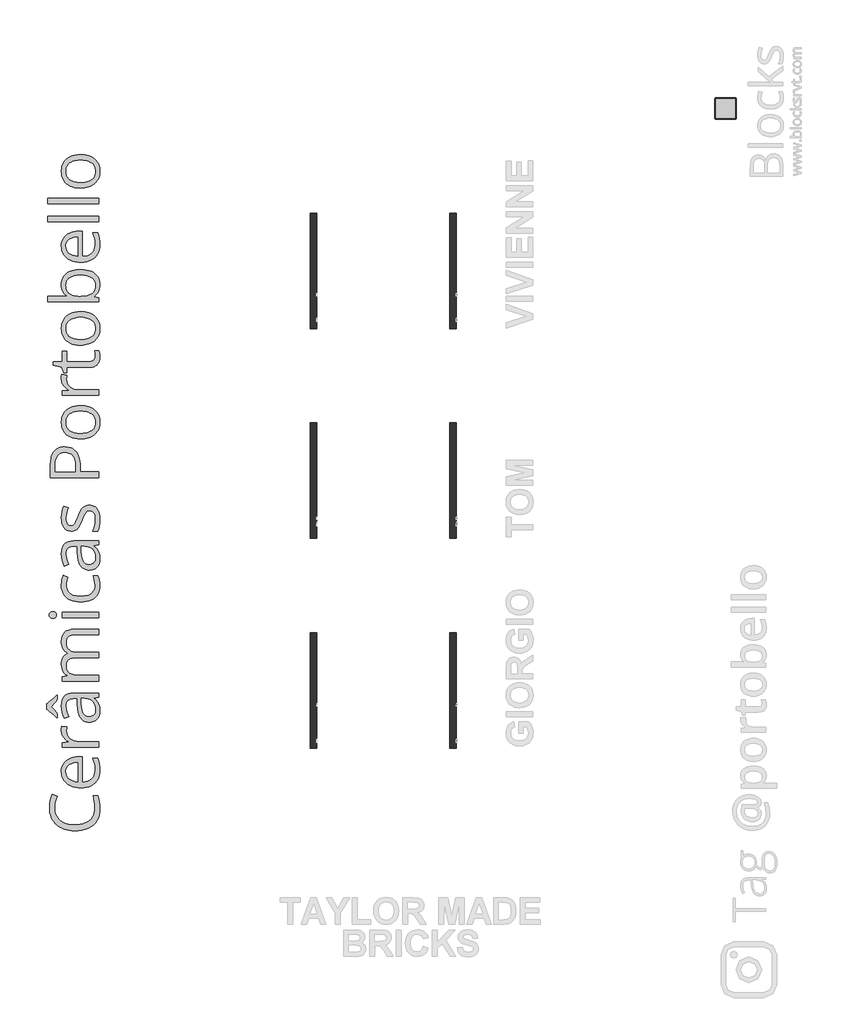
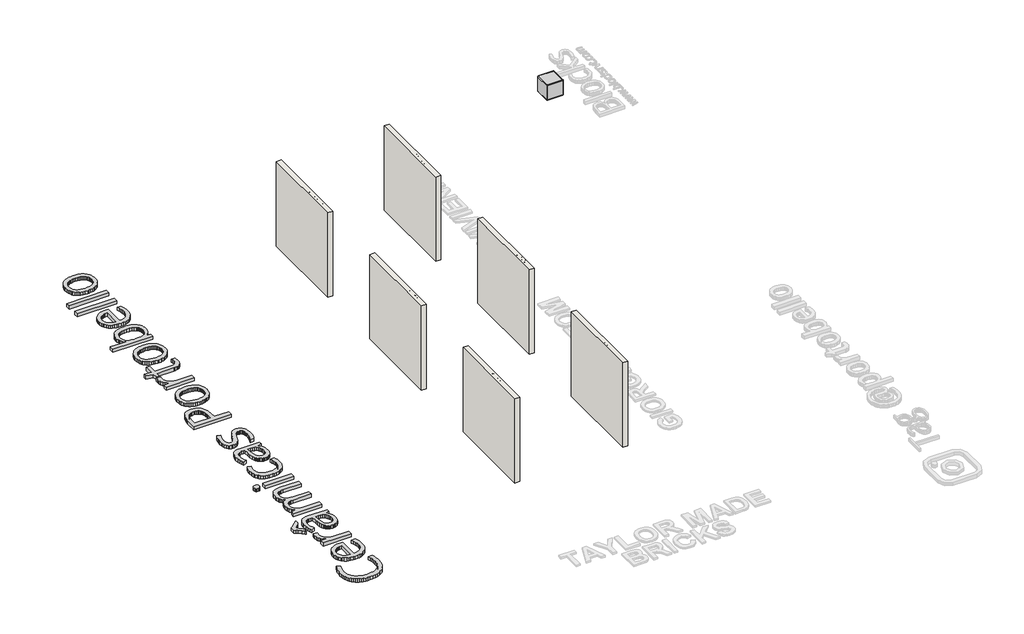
# One storey, part 1 of 6: 6 walls, 1 furniture element, 1 proxy.
"""IFC4 building model written with IfcOpenShell, lengths in millimetres."""

from ifc_helpers import new_model, si_unit, origin, origin_with_axes, place, context, project, spatial, polyline, outline, extrude, transform, mapped, element, save
from components import branco_22256ad2

model = new_model("IFC4")

# Units and contexts
model_context = context("Model", 3, world=origin())
ifc_project = project(units=[si_unit("LENGTHUNIT", "METRE", prefix="MILLI")], contexts=[model_context])

# Site, building, storey
site = spatial("IfcSite", under=ifc_project)
building = spatial("IfcBuilding", under=site)
storey = spatial("IfcBuildingStorey", under=building, Name="PORTOBELLO - SHOWROOM", Elevation=0.0)

# Proxy
placement = place(None, origin())
element("IfcBuildingElementProxy", 1, Name="1200mm OpenSans", ObjectType="1200mm OpenSans", at=placement, inside=storey, context=model_context, shape_type="SweptSolid", body=[
    extrude(outline(polyline([(-19325.6169212, -9711.6761029), (-19323.577561, -9757.5335398), (-19317.4594803, -9801.0023339), (-19307.2626792, -9842.082485), (-19292.9871577, -9880.7739932), (-19274.8695266, -9916.8627821), (-19253.1463968, -9950.134775), (-19227.8177682, -9980.5899721), (-19198.8836409, -10008.2283732), (-19166.5468242, -10032.9260395), (-19131.0101274, -10054.5590319), (-19092.2735504, -10073.1273503), (-19050.3370934, -10088.6309949), (-19005.437367, -10100.855889), (-18957.8109823, -10109.5879562), (-18907.4579391, -10114.8271966), (-18854.3782375, -10116.57361), (-18784.4878981, -10113.7906157), (-18719.3973789, -10105.4416327), (-18659.1066799, -10091.526661), (-18603.615801, -10072.0457007), (-18553.5331703, -10046.9987517), (-18509.4672155, -10016.3858141), (-18471.4179368, -9980.2068878), (-18439.385334, -9938.4619729), (-18413.9891023, -9891.1398021), (-18395.8489369, -9838.2291082), (-18384.9648376, -9779.7298914), (-18381.3368045, -9715.6421515), (-18384.5366846, -9641.7744963), (-18394.136325, -9572.3235771), (-18408.6033886, -9505.9373318), (-18426.4055386, -9441.2636983), (-18311.3901292, -9441.2636983), (-18291.0190614, -9504.9007509), (-18276.7773414, -9571.7827523), (-18268.3945569, -9646.6869883), (-18265.6002953, -9734.3907449), (-18270.1297031, -9817.3735515), (-18283.7179264, -9893.2580326), (-18306.3649653, -9962.044188), (-18338.0708198, -10023.7320178), (-18378.0467869, -10078.2201173), (-18425.5041639, -10125.4070819), (-18480.4429508, -10165.2929116), (-18542.8631475, -10197.8776063), (-18611.9985856, -10223.1949677), (-18687.0830966, -10241.2787972), (-18768.1166805, -10252.129095), (-18855.0993373, -10255.7458609), (-18918.7701914, -10253.4924242), (-18979.6242496, -10246.7321141), (-19037.6615119, -10235.4649305), (-19092.8819784, -10219.6908736), (-19144.8574959, -10199.5676838), (-19193.1599117, -10175.2531018), (-19237.7892256, -10146.7471275), (-19278.7454378, -10114.0497609), (-19315.6454638, -10077.2624067), (-19348.1062195, -10036.4864695), (-19376.1277049, -9991.7219494), (-19399.7099201, -9942.9688463), (-19418.4021775, -9890.3623664), (-19431.75379, -9834.037716), (-19439.7647575, -9773.994895), (-19442.43508, -9710.2339034), (-19438.1535502, -9625.3244084), (-19425.308961, -9543.6598622), (-19404.4421371, -9467.4937016), (-19376.0939034, -9399.0793632), (-19264.3234428, -9452.0801945), (-19287.5338409, -9509.1372119), (-19307.4091526, -9571.4222024), (-19321.0649791, -9638.9351661), (-19325.6169212, -9711.6761029)])), origin_with_axes(), (0.0, 0.0, 1.0), 100.0),
    extrude(outline(polyline([(-19165.5327777, -8873.7581986), (-19162.4005007, -8821.2643906), (-19153.0036696, -8772.6690281), (-19137.3422845, -8727.972111), (-19115.4163454, -8687.1736395), (-19087.8455473, -8650.6003618), (-19055.2495854, -8618.5790262), (-19017.6284596, -8591.1096328), (-18974.98217, -8568.1921815), (-18927.9416788, -8550.1308863), (-18877.1379482, -8537.2299612), (-18822.5709784, -8529.4894061), (-18764.2407693, -8526.9092211), (-18680.9537487, -8526.9092211), (-18680.9537487, -9115.3266134), (-18610.9282031, -9109.8620294), (-18549.7586638, -9095.6315766), (-18497.4451307, -9072.635255), (-18453.9876038, -9040.8730647), (-18419.8367706, -9001.0210365), (-18395.4433183, -8953.7552017), (-18380.8072469, -8899.07556), (-18375.9285564, -8836.9821116), (-18379.6241926, -8760.8610197), (-18390.7111012, -8694.0240871), (-18409.0090072, -8630.7025157), (-18434.3376358, -8565.1275076), (-18320.7644259, -8565.1275076), (-18295.8414159, -8629.3504537), (-18278.7603657, -8692.9424375), (-18268.8903129, -8761.9426694), (-18265.6002953, -8842.3903597), (-18268.7889083, -8901.8923559), (-18278.3547471, -8957.4508379), (-18294.2978118, -9009.0658056), (-18316.6181023, -9056.7372591), (-18345.1353438, -9099.8793048), (-18379.6692613, -9137.9060492), (-18420.2198548, -9170.8174922), (-18466.7871243, -9198.613634), (-18519.1119246, -9220.6973137), (-18576.9351105, -9236.4713706), (-18640.2566819, -9245.9358048), (-18709.0766388, -9249.0906162), (-18776.8487477, -9246.2062172), (-18839.9111739, -9237.5530202), (-18898.2639174, -9223.1310253), (-18951.9069781, -9202.9402325), (-19000.2544626, -9177.4763977), (-19042.7204773, -9147.2352771), (-19079.3050222, -9112.2168707), (-19110.0080973, -9072.4211785), (-19134.300145, -9028.366491), (-19151.6516076, -8980.5710984), (-19162.0624852, -8929.035001), (-19165.5327777, -8873.7581986)]), holes=[polyline([(-19059.891665, -8875.2003981), (-19055.35099, -8924.3027839), (-19041.7289652, -8968.1321278), (-19019.0255904, -9006.6884299), (-18987.2408656, -9039.97169), (-18947.3212344, -9067.5312209), (-18900.2131401, -9088.9163352), (-18845.9165827, -9104.127033), (-18784.4315622, -9113.1633142), (-18784.4315622, -8662.1154233), (-18861.3638913, -8668.4250461), (-18896.1456869, -8675.7712498), (-18928.4712364, -8685.9117149), (-18957.8447838, -8698.9140447), (-18983.7705731, -8714.8458422), (-19006.2486042, -8733.7071075), (-19025.2788772, -8755.4978404), (-19040.4219719, -8780.4208503), (-19051.238468, -8808.6789466), (-19057.7283658, -8840.2721292), (-19059.891665, -8875.2003981)])]), origin_with_axes(), (0.0, 0.0, 1.0), 100.0),
    extrude(outline(polyline([(-19165.5327777, -7914.6955371), (-19162.8286537, -7860.9736061), (-19155.4373813, -7811.2177237), (-19035.7348235, -7827.4424679), (-19044.3880205, -7874.3139514), (-19047.6329693, -7922.2670845), (-19042.4049962, -7972.2933793), (-19026.7210767, -8019.2550002), (-19001.3023107, -8061.8900227), (-18966.8697978, -8098.9365221), (-18924.0094317, -8129.4931238), (-18873.3071059, -8152.6584532), (-18815.5740575, -8167.260723), (-18751.6215238, -8172.1281463), (-18288.6754872, -8172.1281463), (-18288.6754872, -8301.9261005), (-19142.4575859, -8301.9261005), (-19142.4575859, -8194.4822384), (-18993.1899385, -8180.4207934), (-18993.1899385, -8175.0125453), (-19038.4389476, -8145.9432118), (-19079.721908, -8111.3754927), (-19115.0107268, -8071.0389757), (-19142.2773109, -8024.6632483), (-19152.4515776, -7999.2670167), (-19159.718911, -7972.4736543), (-19165.5327777, -7914.6955371)])), origin_with_axes(), (0.0, 0.0, 1.0), 100.0),
    extrude(outline(polyline([(-19511.6606555, -7286.9782087), (-19474.4789499, -7263.6326044), (-19432.8805084, -7232.5351779), (-19347.0696386, -7158.622454), (-19274.7793892, -7089.3968784), (-19257.8335451, -7089.3968784), (-19257.8335451, -7180.9765461), (-19288.029597, -7223.701706), (-19324.5352716, -7267.5085156), (-19406.7406426, -7353.6799352), (-19324.8958215, -7438.9499801), (-19288.4802843, -7481.7202087), (-19257.8335451, -7523.8594751), (-19257.8335451, -7612.5547438), (-19274.7793892, -7612.5547438), (-19347.7907384, -7545.3121925), (-19433.2410582, -7473.021943), (-19474.5690874, -7442.014654), (-19511.6606555, -7418.2183624), (-19511.6606555, -7286.9782087)])), origin_with_axes(), (0.0, 0.0, 1.0), 100.0),
    extrude(outline(polyline([(-19165.5327777, -7337.094641), (-19161.2061792, -7265.7508349), (-19148.2263838, -7204.2320129), (-19126.5933915, -7152.5381749), (-19112.5319464, -7130.3756249), (-19096.3072021, -7110.6693209), (-19077.7050821, -7093.3460263), (-19056.5115099, -7078.3325042), (-19032.7264855, -7065.6287548), (-19006.3500089, -7055.234778), (-18945.822699, -7041.3761423), (-18874.9295803, -7036.756597), (-18288.6754872, -7036.756597), (-18288.6754872, -7130.8601138), (-18406.9358455, -7155.738055), (-18406.9358455, -7161.8674029), (-18364.1656168, -7198.5984211), (-18328.876798, -7236.6815014), (-18301.249664, -7278.5052867), (-18281.4644897, -7326.4584198), (-18269.5663439, -7383.199956), (-18265.6002953, -7451.3889507), (-18267.3129072, -7489.0664124), (-18272.4507429, -7524.5805748), (-18281.0138024, -7557.9314381), (-18293.0020857, -7589.1190021), (-18308.4719286, -7617.6249764), (-18327.4796672, -7642.9310706), (-18350.0253015, -7665.0372846), (-18376.1088313, -7683.9436186), (-18405.8203943, -7699.0867132), (-18439.2501278, -7709.9032094), (-18476.3980319, -7716.3931071), (-18517.2641065, -7718.5564064), (-18548.5080064, -7716.9790007), (-18577.8815539, -7712.2467836), (-18605.3847488, -7704.3597551), (-18631.0175914, -7693.3179153), (-18654.7800814, -7679.121264), (-18676.672219, -7661.7698014), (-18696.6940041, -7641.2635274), (-18714.8454368, -7617.602442), (-18731.0870818, -7590.7076749), (-18745.3795041, -7560.5003559), (-18768.1166805, -7490.148062), (-18783.0569658, -7406.5455602), (-18790.2003602, -7309.6928507), (-18796.329708, -7162.9490525), (-18851.1332887, -7162.9490525), (-18905.1594337, -7165.9123217), (-18950.4197099, -7174.8021295), (-18986.9141173, -7189.6184759), (-19014.642656, -7210.3613607), (-19035.0700597, -7236.4899593), (-19049.6610624, -7267.4634468), (-19058.415664, -7303.2818233), (-19061.3338645, -7343.9450886), (-19056.4664412, -7409.1595468), (-19041.8641714, -7471.3994686), (-19020.6818663, -7530.5747165), (-18996.0743375, -7586.5951529), (-19094.1439029, -7626.2556389), (-19121.5456932, -7564.3311983), (-19144.6208851, -7493.9338357), (-19160.3048046, -7417.4071252), (-19165.5327777, -7337.094641)]), holes=[polyline([(-18705.1105902, -7164.391252), (-18699.7023421, -7294.1892061), (-18693.9673457, -7367.9892582), (-18683.2522542, -7430.0263707), (-18667.5570675, -7480.3005436), (-18646.8817858, -7518.8117769), (-18621.294012, -7547.3628199), (-18590.8613493, -7567.7564221), (-18555.5837977, -7579.9925834), (-18515.4613572, -7584.0713038), (-18480.9049053, -7581.2995767), (-18451.1482736, -7572.9843953), (-18426.1914621, -7559.1257595), (-18406.0344708, -7539.7236695), (-18390.4970247, -7515.7696373), (-18379.3988489, -7488.2551752), (-18372.7399435, -7457.180283), (-18370.5203083, -7422.5449608), (-18374.5088913, -7368.3385409), (-18386.4746402, -7319.292491), (-18406.417555, -7275.4068112), (-18434.3376358, -7236.6815014), (-18470.2123481, -7205.0545173), (-18514.0191577, -7182.4638143), (-18565.7580644, -7168.9093926), (-18625.4290683, -7164.391252), (-18705.1105902, -7164.391252)])]), origin_with_axes(), (0.0, 0.0, 1.0), 100.0),
    extrude(outline(polyline([(-19165.5327777, -5830.7172727), (-19160.8906981, -5764.5789054), (-19146.9644593, -5707.1388038), (-19123.7540612, -5658.3969679), (-19091.2595039, -5618.3533976), (-19071.2884211, -5601.6216301), (-19048.5118096, -5587.1207649), (-18994.5420006, -5564.8117415), (-18929.3500767, -5551.4263275), (-18852.936038, -5546.9645228), (-18288.6754872, -5546.9645228), (-18288.6754872, -5674.2386279), (-18847.5277899, -5674.2386279), (-18896.6977788, -5677.0328894), (-18939.2877326, -5685.415674), (-18975.2976511, -5699.3869815), (-19004.7275345, -5718.9468121), (-19027.599917, -5744.0050283), (-19043.9373331, -5774.4714925), (-19053.7397828, -5810.3462049), (-19057.007266, -5851.6291653), (-19052.4778582, -5909.2270075), (-19038.8896349, -5958.3519276), (-19016.242596, -5999.0039258), (-18984.5367416, -6031.1830019), (-18944.0199496, -6055.6327902), (-18894.9400982, -6073.0969246), (-18837.2971873, -6083.5754053), (-18771.0912169, -6087.0682322), (-18288.6754872, -6087.0682322), (-18288.6754872, -6215.4239869), (-18847.5277899, -6215.4239869), (-18911.8408735, -6220.3815476), (-18939.501809, -6226.5784986), (-18964.1656738, -6235.2542299), (-18985.8888036, -6246.3862072), (-19004.7275345, -6259.9518962), (-19020.6818663, -6275.9512968), (-19033.7517992, -6294.384409), (-19043.9260659, -6315.318836), (-19051.1933993, -6338.8221808), (-19057.007266, -6393.535624), (-19054.7876309, -6433.8045379), (-19048.1287254, -6469.8820596), (-19037.0305496, -6501.768189), (-19021.4931035, -6529.4629261), (-19001.6065246, -6553.3042864), (-18977.4609503, -6573.6302855), (-18949.0563807, -6590.4409233), (-18916.3928156, -6603.7361998), (-18879.5941943, -6613.8315963), (-18838.7844555, -6621.0425937), (-18745.1316261, -6626.8113917), (-18288.6754872, -6626.8113917), (-18288.6754872, -6755.8882461), (-19142.4575859, -6755.8882461), (-19142.4575859, -6651.6893329), (-19029.6054757, -6632.2196398), (-19029.6054757, -6625.0086423), (-19070.4377488, -6596.1195838), (-19104.2392993, -6560.65049), (-19130.8298525, -6519.5027358), (-19150.0291332, -6473.5776958), (-19161.6568666, -6423.7316759), (-19165.5327777, -6370.820982), (-19163.279341, -6324.2762469), (-19156.5190309, -6281.6299573), (-19145.2518474, -6242.8821131), (-19129.4777904, -6208.0327145), (-19109.0841883, -6177.3972425), (-19083.958369, -6151.2911783), (-19054.1003327, -6129.7145218), (-19019.5100792, -6112.6672732), (-19019.5100792, -6105.8168256), (-19054.1003327, -6082.944443), (-19083.958369, -6056.1510806), (-19109.0841883, -6025.4367383), (-19129.4777904, -5990.8014162), (-19145.2518474, -5953.3492981), (-19156.5190309, -5914.1845682), (-19163.279341, -5873.3072264), (-19165.5327777, -5830.7172727)])), origin_with_axes(), (0.0, 0.0, 1.0), 100.0),
    extrude(outline(polyline([(-19142.4575859, -5149.9991129), (-18288.6754872, -5149.9991129), (-18288.6754872, -5279.0759674), (-19142.4575859, -5279.0759674), (-19142.4575859, -5149.9991129)])), origin_with_axes(), (0.0, 0.0, 1.0), 100.0),
    extrude(outline(polyline([(-19450.3671772, -5212.7347908), (-19445.2293415, -5183.21477), (-19429.8158344, -5158.1114851), (-19418.0979636, -5148.0949589), (-19403.4956937, -5140.9402974), (-19386.0090249, -5136.6475005), (-19365.6379571, -5135.2165682), (-19345.559836, -5136.6475005), (-19328.2309078, -5140.9402974), (-19313.6511723, -5148.0949589), (-19301.8206296, -5158.1114851), (-19286.1367101, -5183.21477), (-19280.908737, -5212.7347908), (-19286.1367101, -5243.4265987), (-19301.8206296, -5268.4397461), (-19313.6511723, -5278.1407911), (-19328.2309078, -5285.070109), (-19365.6379571, -5290.6135633), (-19403.4956937, -5285.070109), (-19418.0979636, -5278.1407911), (-19429.8158344, -5268.4397461), (-19445.2293415, -5243.4265987), (-19450.3671772, -5212.7347908)])), origin_with_axes(), (0.0, 0.0, 1.0), 100.0),
    extrude(outline(polyline([(-18265.6002953, -4522.2817845), (-18268.6199005, -4578.0881445), (-18277.6787161, -4630.491815), (-18292.776742, -4679.4927962), (-18313.9139783, -4725.0910879), (-18341.2368983, -4766.5655905), (-18374.8919755, -4803.1952041), (-18414.8792098, -4834.9799288), (-18461.1986013, -4861.9197646), (-18513.917753, -4883.372482), (-18573.1042681, -4898.6958516), (-18638.7581464, -4907.8898734), (-18710.8793882, -4910.9545473), (-18786.076571, -4907.7208656), (-18854.1078251, -4898.0198206), (-18914.9731505, -4881.8514123), (-18968.6725472, -4859.2156406), (-19015.5440306, -4830.9012084), (-19055.9256164, -4797.6968185), (-19089.8173044, -4759.602471), (-19117.2190948, -4716.6181659), (-19138.3563311, -4669.6340106), (-19153.454357, -4619.5401127), (-19162.5131725, -4566.3364721), (-19165.5327777, -4510.0230888), (-19162.3328976, -4447.287411), (-19152.7332572, -4386.7150323), (-19138.2661936, -4332.542414), (-19120.4640436, -4289.0060168), (-19012.6596317, -4327.9454031), (-19027.3971077, -4369.8593258), (-19040.6022468, -4417.7223214), (-19049.9314748, -4466.937379), (-19053.0412174, -4512.9074878), (-19050.5962386, -4555.3847697), (-19043.2613021, -4594.1213466), (-19031.036408, -4629.1172187), (-19013.9215562, -4660.3723857), (-18992.0744874, -4687.8981151), (-18965.652942, -4711.7056739), (-18934.6569201, -4731.7950621), (-18899.0864218, -4748.1662798), (-18859.0203171, -4760.8643956), (-18814.5374766, -4769.9344783), (-18765.6379001, -4775.376528), (-18712.3215877, -4777.1905445), (-18661.2587119, -4775.4215967), (-18614.0717473, -4770.1147533), (-18570.7606939, -4761.2700142), (-18531.3255516, -4748.8873795), (-18496.0479999, -4732.9781164), (-18465.2097186, -4713.553492), (-18438.8107076, -4690.6135063), (-18416.850967, -4664.1581594), (-18399.5783746, -4634.1761841), (-18387.2408087, -4600.6563131), (-18379.8382691, -4563.5985465), (-18377.3707559, -4523.0028842), (-18380.9762546, -4458.8250069), (-18391.7927508, -4401.1370272), (-18407.4766703, -4349.2178456), (-18425.6844388, -4302.3463621), (-18310.6690294, -4302.3463621), (-18291.5148174, -4347.4150962), (-18277.3181662, -4397.5315285), (-18268.5297631, -4455.0392332), (-18265.6002953, -4522.2817845)])), origin_with_axes(), (0.0, 0.0, 1.0), 100.0),
    extrude(outline(polyline([(-19165.5327777, -3783.5150952), (-19161.2061792, -3712.1712892), (-19148.2263838, -3650.6524671), (-19126.5933915, -3598.9586291), (-19112.5319464, -3576.7960791), (-19096.3072021, -3557.0897751), (-19077.7050821, -3539.7664805), (-19056.5115099, -3524.7529584), (-19032.7264855, -3512.049209), (-19006.3500089, -3501.6552322), (-18945.822699, -3487.7965965), (-18874.9295803, -3483.1770512), (-18288.6754872, -3483.1770512), (-18288.6754872, -3577.280568), (-18406.9358455, -3602.1585092), (-18406.9358455, -3608.2878571), (-18364.1656168, -3645.0188754), (-18328.876798, -3683.1019557), (-18301.249664, -3724.9257409), (-18281.4644897, -3772.878874), (-18269.5663439, -3829.6204102), (-18265.6002953, -3897.8094049), (-18267.3129072, -3935.4868666), (-18272.4507429, -3971.0010291), (-18281.0138024, -4004.3518923), (-18293.0020857, -4035.5394563), (-18308.4719286, -4064.0454306), (-18327.4796672, -4089.3515248), (-18350.0253015, -4111.4577389), (-18376.1088313, -4130.3640728), (-18405.8203943, -4145.5071675), (-18439.2501278, -4156.3236636), (-18476.3980319, -4162.8135614), (-18517.2641065, -4164.9768606), (-18548.5080064, -4163.3994549), (-18577.8815539, -4158.6672378), (-18605.3847488, -4150.7802094), (-18631.0175914, -4139.7383695), (-18654.7800814, -4125.5417183), (-18676.672219, -4108.1902556), (-18696.6940041, -4087.6839816), (-18714.8454368, -4064.0228962), (-18731.0870818, -4037.1281292), (-18745.3795041, -4006.9208101), (-18768.1166805, -3936.5685162), (-18783.0569658, -3852.9660145), (-18790.2003602, -3756.1133049), (-18796.329708, -3609.3695067), (-18851.1332887, -3609.3695067), (-18905.1594337, -3612.332776), (-18950.4197099, -3621.2225838), (-18986.9141173, -3636.0389301), (-19014.642656, -3656.781815), (-19035.0700597, -3682.9104135), (-19049.6610624, -3713.8839011), (-19058.415664, -3749.7022775), (-19061.3338645, -3790.3655428), (-19056.4664412, -3855.580001), (-19041.8641714, -3917.8199228), (-19020.6818663, -3976.9951707), (-18996.0743375, -4033.0156072), (-19094.1439029, -4072.6760932), (-19121.5456932, -4010.7516525), (-19144.6208851, -3940.3542899), (-19160.3048046, -3863.8275794), (-19165.5327777, -3783.5150952)]), holes=[polyline([(-18705.1105902, -3610.8117062), (-18699.7023421, -3740.6096604), (-18693.9673457, -3814.4097124), (-18683.2522542, -3876.4468249), (-18667.5570675, -3926.7209978), (-18646.8817858, -3965.2322311), (-18621.294012, -3993.7832741), (-18590.8613493, -4014.1768763), (-18555.5837977, -4026.4130376), (-18515.4613572, -4030.4917581), (-18480.9049053, -4027.7200309), (-18451.1482736, -4019.4048495), (-18426.1914621, -4005.5462137), (-18406.0344708, -3986.1441237), (-18390.4970247, -3962.1900915), (-18379.3988489, -3934.6756294), (-18372.7399435, -3903.6007372), (-18370.5203083, -3868.9654151), (-18374.5088913, -3814.7589951), (-18386.4746402, -3765.7129453), (-18406.417555, -3721.8272654), (-18434.3376358, -3683.1019557), (-18470.2123481, -3651.4749715), (-18514.0191577, -3628.8842686), (-18565.7580644, -3615.3298468), (-18625.4290683, -3610.8117062), (-18705.1105902, -3610.8117062)])]), origin_with_axes(), (0.0, 0.0, 1.0), 100.0),
    extrude(outline(polyline([(-18519.0668559, -2651.0279449), (-18479.0908887, -2653.5743284), (-18442.4500079, -2661.2134788), (-18409.1442134, -2673.9453962), (-18379.1735053, -2691.7700806), (-18352.6280209, -2714.3382492), (-18329.5978977, -2741.3006193), (-18310.0831359, -2772.6571911), (-18294.0837353, -2808.4079644), (-18281.6222303, -2848.169855), (-18272.7211553, -2891.5597788), (-18267.3805103, -2938.5777356), (-18265.6002953, -2989.2237256), (-18269.1156566, -3072.6008836), (-18279.6617404, -3143.899621), (-18296.6075844, -3205.1029619), (-18319.3222264, -3258.1939306), (-18438.3036844, -3258.1939306), (-18413.6060181, -3200.9115696), (-18391.4322009, -3133.6239496), (-18375.7482815, -3060.5675316), (-18370.5203083, -2985.9787767), (-18372.8300809, -2934.6004198), (-18379.7593988, -2890.7936103), (-18391.3082619, -2854.5583481), (-18407.4766703, -2825.8946332), (-18427.6111272, -2804.1264346), (-18451.0581361, -2788.5777214), (-18477.817697, -2779.2484934), (-18507.8898098, -2776.1387508), (-18541.4660167, -2781.0963115), (-18570.8057626, -2795.9689938), (-18597.6667281, -2822.5144782), (-18623.8065939, -2862.4904453), (-18650.8929031, -2918.0601944), (-18680.5931989, -2991.3870248), (-18712.2314502, -3067.6433229), (-18743.6894266, -3132.7225749), (-18760.229652, -3160.7665947), (-18778.4824893, -3185.4079251), (-18798.4479385, -3206.646566), (-18820.1259996, -3224.4825175), (-18844.3504442, -3238.6002985), (-18871.9550438, -3248.6844277), (-18902.9397985, -3254.7349053), (-18937.3047083, -3256.7517311), (-18989.2576915, -3251.27588), (-19034.7883801, -3234.8483264), (-19073.8967741, -3207.4690704), (-19106.5828735, -3169.1381121), (-19132.3734566, -3121.9286131), (-19150.7953017, -3067.9137353), (-19161.8484087, -3007.0934786), (-19165.5327777, -2939.4678431), (-19161.747004, -2864.7889507), (-19150.3896831, -2795.0676191), (-19132.6326018, -2730.1235733), (-19109.6475474, -2669.7765383), (-19006.169734, -2713.042523), (-19027.0816266, -2767.7559662), (-19044.3880205, -2825.8946332), (-19056.0157539, -2886.3768744), (-19059.891665, -2948.1210401), (-19057.9987782, -2990.2265049), (-19052.3201177, -3027.1265309), (-19042.8556835, -3058.8211182), (-19029.6054757, -3085.3102667), (-19013.0652503, -3106.2108921), (-18993.7307633, -3121.1399103), (-18971.6020149, -3130.0973212), (-18946.679005, -3133.0831248), (-18909.5423681, -3127.5396705), (-18893.6781737, -3120.6103526), (-18879.6167286, -3110.9093076), (-18854.0627564, -3082.0202491), (-18830.0411211, -3039.7007078), (-18775.7783653, -2910.6238533), (-18745.311901, -2836.0350984), (-18713.7637872, -2772.3529771), (-18696.8742791, -2744.9061181), (-18678.2946934, -2720.7943453), (-18658.0250303, -2700.0176589), (-18636.0652896, -2682.5760588), (-18611.6493029, -2668.773759), (-18584.0109017, -2658.9149734), (-18553.150086, -2652.9997021), (-18519.0668559, -2651.0279449)])), origin_with_axes(), (0.0, 0.0, 1.0), 100.0),
    extrude(outline(polyline([(-19419.3598881, -1708.9111275), (-19413.9741744, -1606.3459558), (-19407.2420322, -1560.6152747), (-19397.8170332, -1518.5858634), (-19385.6991773, -1480.2577218), (-19370.8884646, -1445.6308501), (-19353.384895, -1414.7052481), (-19333.1884685, -1387.4809159), (-19310.4794601, -1363.6930747), (-19285.4381448, -1343.0769456), (-19258.0645224, -1325.6325287), (-19228.358593, -1311.359824), (-19196.3203567, -1300.2588314), (-19161.9498133, -1292.329551), (-19125.246963, -1287.5719828), (-19086.2118057, -1285.9861267), (-19015.318687, -1291.9351996), (-18948.3014794, -1309.7824183), (-18916.7308311, -1323.4945807), (-18887.0981385, -1340.8347761), (-18859.4034014, -1361.8030046), (-18833.6466198, -1386.3992663), (-18810.1770766, -1414.871439), (-18789.3440542, -1447.467401), (-18771.1475528, -1484.1871521), (-18755.5875724, -1525.0306924), (-18743.1260674, -1570.3473045), (-18734.2249924, -1620.4862712), (-18728.8843474, -1675.4475924), (-18727.1041325, -1735.2312682), (-18727.1041325, -1873.6824193), (-18288.6754872, -1873.6824193), (-18288.6754872, -2006.0042226), (-19419.3598881, -2006.0042226), (-19419.3598881, -1708.9111275)]), holes=[polyline([(-19306.8683278, -1721.530373), (-19306.8683278, -1873.6824193), (-18840.6773424, -1873.6824193), (-18840.6773424, -1750.0138129), (-18842.1420762, -1697.835486), (-18846.5362778, -1650.1865669), (-18853.8599471, -1607.0670556), (-18864.1130841, -1568.476952), (-18877.6675059, -1534.4162562), (-18894.8950295, -1504.8849682), (-18915.7956549, -1479.883088), (-18940.3693822, -1459.4106155), (-18968.9542268, -1443.478818), (-19001.8882042, -1432.0989627), (-19039.1713145, -1425.2710494), (-19080.8035576, -1422.9950784), (-19134.300145, -1427.513219), (-19180.4955974, -1441.0676407), (-19219.389915, -1463.6583437), (-19250.9830976, -1495.2853278), (-19275.4328858, -1536.5344867), (-19292.8970203, -1587.9917139), (-19303.3755009, -1649.6570093), (-19306.8683278, -1721.530373)])]), origin_with_axes(), (0.0, 0.0, 1.0), 100.0),
    extrude(outline(polyline([(-18717.008736, -321.5152171), (-18665.06702, -323.2165618), (-18615.9646342, -328.320596), (-18569.7015786, -336.8273195), (-18526.2778533, -348.7367325), (-18485.9075348, -363.8572928), (-18448.8046994, -381.9974583), (-18414.9693473, -403.1572289), (-18384.4014784, -427.3366048), (-18357.179963, -454.3553109), (-18333.3836714, -484.0330723), (-18313.0126036, -516.369889), (-18296.0667596, -551.365761), (-18282.7376815, -588.874215), (-18273.2169114, -628.7487774), (-18267.5044494, -670.9894485), (-18265.6002953, -715.596228), (-18267.5044494, -757.4312805), (-18273.2169114, -797.4861179), (-18282.7376815, -835.7607403), (-18296.0667596, -872.2551477), (-18313.0126036, -906.6425919), (-18333.3836714, -938.5963243), (-18357.179963, -968.1163452), (-18384.4014784, -995.2026544), (-18414.9693473, -1019.6073739), (-18448.8046994, -1041.0826257), (-18485.9075348, -1059.6284097), (-18526.2778533, -1075.2447261), (-18569.7015786, -1087.6273608), (-18615.9646342, -1096.4720999), (-18665.06702, -1101.7789433), (-18717.008736, -1103.5478911), (-18785.7385555, -1100.5846218), (-18849.1502644, -1091.694814), (-18907.2438626, -1076.8784677), (-18960.0193502, -1056.1355828), (-19007.1612461, -1029.8830452), (-19048.3540691, -998.5377407), (-19083.5978191, -962.0996692), (-19112.8924963, -920.5688307), (-19135.9226194, -874.3621111), (-19152.3727074, -823.8963961), (-19162.2427601, -769.1716857), (-19165.5327777, -710.1879799), (-19162.2202258, -653.773192), (-19152.2825699, -600.9864372), (-19135.7198101, -551.8277155), (-19112.5319464, -506.2970269), (-19083.0795287, -465.0027993), (-19047.7231068, -428.5534606), (-19006.4626807, -396.9490108), (-18959.2982505, -370.1894499), (-18906.5678316, -348.8944731), (-18848.6094396, -333.6837753), (-18785.4230744, -324.5573567), (-18717.008736, -321.5152171)]), holes=[polyline([(-18717.3692859, -969.7838883), (-18666.4641507, -968.0825436), (-18619.0293081, -962.9785095), (-18575.064758, -954.4717859), (-18534.5705004, -942.5623729), (-18498.0197571, -927.1150643), (-18465.8857496, -907.9946539), (-18438.1684782, -885.2011416), (-18414.8679427, -858.7345275), (-18396.412296, -828.3807351), (-18383.2296913, -793.9256879), (-18375.3201285, -755.3693859), (-18372.6836075, -712.7118291), (-18375.3201285, -670.3359518), (-18383.2296913, -631.9035888), (-18396.412296, -597.4147401), (-18414.8679427, -566.8694055), (-18438.1684782, -540.1661806), (-18465.8857496, -517.2036606), (-18498.0197571, -497.9818455), (-18534.5705004, -482.5007353), (-18575.064758, -470.5913223), (-18619.0293081, -462.0845988), (-18666.4641507, -456.9805646), (-18717.3692859, -455.2792199), (-18767.7223291, -456.9805646), (-18814.5825453, -462.0845988), (-18857.9499347, -470.5913223), (-18897.8244972, -482.5007353), (-18933.7780798, -497.9593111), (-18965.3825296, -517.1135231), (-18992.6378465, -539.9633713), (-19015.5440306, -566.5088557), (-19033.6841961, -596.9865871), (-19046.6414572, -631.6331764), (-19054.4158138, -670.4486237), (-19057.007266, -713.4329288), (-19051.3736743, -775.3461023), (-19044.3316846, -802.9816866), (-19034.472899, -828.4032695), (-19021.7973175, -851.6108507), (-19006.3049402, -872.6044304), (-18987.9957669, -891.3840086), (-18966.8697978, -907.9495851), (-18917.4744653, -935.0020928), (-18859.4259357, -954.3253125), (-18792.7242093, -965.9192444), (-18717.3692859, -969.7838883)])]), origin_with_axes(), (0.0, 0.0, 1.0), 100.0),
    extrude(outline(polyline([(-19165.5327777, 300.0727635), (-19162.8286537, 353.7946945), (-19155.4373813, 403.550577), (-19035.7348235, 387.3258327), (-19044.3880205, 340.4543492), (-19047.6329693, 292.5012162), (-19042.4049962, 242.4749213), (-19026.7210767, 195.5133004), (-19001.3023107, 152.8782779), (-18966.8697978, 115.8317785), (-18924.0094317, 85.2751768), (-18873.3071059, 62.1098475), (-18815.5740575, 47.5075776), (-18751.6215238, 42.6401543), (-18288.6754872, 42.6401543), (-18288.6754872, -87.1577998), (-19142.4575859, -87.1577998), (-19142.4575859, 20.2860622), (-18993.1899385, 34.3475073), (-18993.1899385, 39.7557554), (-19038.4389476, 68.8250889), (-19079.721908, 103.3928079), (-19115.0107268, 143.7293249), (-19142.2773109, 190.1050523), (-19152.4515776, 215.501284), (-19159.718911, 242.2946464), (-19165.5327777, 300.0727635)])), origin_with_axes(), (0.0, 0.0, 1.0), 100.0),
    extrude(outline(polyline([(-18371.2414081, 834.4076749), (-18376.6496561, 899.6672019), (-18389.9900014, 954.1102326), (-18289.7571368, 954.1102326), (-18280.4279089, 927.0689922), (-18272.6310179, 891.3745548), (-18267.357976, 851.8042063), (-18265.6002953, 813.1352324), (-18271.594437, 748.7770801), (-18279.087114, 718.8965094), (-18289.5768619, 690.5482757), (-18303.6608413, 664.3408068), (-18321.936213, 640.8825307), (-18344.4029769, 620.1734474), (-18371.0611331, 602.2135568), (-18402.5529111, 587.7014245), (-18439.5205402, 577.3356156), (-18481.9640205, 571.1161303), (-18529.8833521, 569.0429686), (-19041.5036215, 569.0429686), (-19041.5036215, 447.8982113), (-19104.2392993, 447.8982113), (-19155.0768314, 570.1246182), (-19350.1343126, 621.3227001), (-19350.1343126, 698.8409227), (-19142.4575859, 698.8409227), (-19142.4575859, 948.7019846), (-19041.5036215, 948.7019846), (-19041.5036215, 698.8409227), (-18532.767751, 698.8409227), (-18494.763541, 701.1506954), (-18461.8746323, 708.0800132), (-18434.1010249, 719.6288763), (-18411.4427189, 735.7972847), (-18393.8546454, 755.8190698), (-18381.2917358, 778.9280632), (-18373.75399, 805.1242649), (-18371.2414081, 834.4076749)])), origin_with_axes(), (0.0, 0.0, 1.0), 100.0),
    extrude(outline(polyline([(-18717.008736, 1870.6280092), (-18665.06702, 1868.9266645), (-18615.9646342, 1863.8226303), (-18569.7015786, 1855.3159068), (-18526.2778533, 1843.4064938), (-18485.9075348, 1828.2859335), (-18448.8046994, 1810.145768), (-18414.9693473, 1788.9859974), (-18384.4014784, 1764.8066215), (-18357.179963, 1737.7879154), (-18333.3836714, 1708.110154), (-18313.0126036, 1675.7733373), (-18296.0667596, 1640.7774653), (-18282.7376815, 1603.2690113), (-18273.2169114, 1563.3944489), (-18267.5044494, 1521.1537778), (-18265.6002953, 1476.5469983), (-18267.5044494, 1434.7119458), (-18273.2169114, 1394.6571084), (-18282.7376815, 1356.382486), (-18296.0667596, 1319.8880785), (-18313.0126036, 1285.5006344), (-18333.3836714, 1253.546902), (-18357.179963, 1224.0268811), (-18384.4014784, 1196.9405719), (-18414.9693473, 1172.5358524), (-18448.8046994, 1151.0606006), (-18485.9075348, 1132.5148166), (-18526.2778533, 1116.8985002), (-18569.7015786, 1104.5158655), (-18615.9646342, 1095.6711264), (-18665.06702, 1090.364283), (-18717.008736, 1088.5953352), (-18785.7385555, 1091.5586044), (-18849.1502644, 1100.4484122), (-18907.2438626, 1115.2647586), (-18960.0193502, 1136.0076434), (-19007.1612461, 1162.2601811), (-19048.3540691, 1193.6054856), (-19083.5978191, 1230.0435571), (-19112.8924963, 1271.5743956), (-19135.9226194, 1317.7811152), (-19152.3727074, 1368.2468302), (-19162.2427601, 1422.9715406), (-19165.5327777, 1481.9552463), (-19162.2202258, 1538.3700342), (-19152.2825699, 1591.1567891), (-19135.7198101, 1640.3155108), (-19112.5319464, 1685.8461994), (-19083.0795287, 1727.140427), (-19047.7231068, 1763.5897657), (-19006.4626807, 1795.1942155), (-18959.2982505, 1821.9537763), (-18906.5678316, 1843.2487532), (-18848.6094396, 1858.459451), (-18785.4230744, 1867.5858696), (-18717.008736, 1870.6280092)]), holes=[polyline([(-18717.3692859, 1222.359338), (-18666.4641507, 1224.0606827), (-18619.0293081, 1229.1647168), (-18575.064758, 1237.6714404), (-18534.5705004, 1249.5808534), (-18498.0197571, 1265.028162), (-18465.8857496, 1284.1485724), (-18438.1684782, 1306.9420847), (-18414.8679427, 1333.4086988), (-18396.412296, 1363.7624912), (-18383.2296913, 1398.2175384), (-18375.3201285, 1436.7738404), (-18372.6836075, 1479.4313972), (-18375.3201285, 1521.8072745), (-18383.2296913, 1560.2396375), (-18396.412296, 1594.7284862), (-18414.8679427, 1625.2738208), (-18438.1684782, 1651.9770457), (-18465.8857496, 1674.9395657), (-18498.0197571, 1694.1613808), (-18534.5705004, 1709.642491), (-18575.064758, 1721.551904), (-18619.0293081, 1730.0586275), (-18666.4641507, 1735.1626617), (-18717.3692859, 1736.8640064), (-18767.7223291, 1735.1626617), (-18814.5825453, 1730.0586275), (-18857.9499347, 1721.551904), (-18897.8244972, 1709.642491), (-18933.7780798, 1694.1839152), (-18965.3825296, 1675.0297032), (-18992.6378465, 1652.179855), (-19015.5440306, 1625.6343706), (-19033.6841961, 1595.1566392), (-19046.6414572, 1560.5100499), (-19054.4158138, 1521.6946026), (-19057.007266, 1478.7102975), (-19051.3736743, 1416.797124), (-19044.3316846, 1389.1615396), (-19034.472899, 1363.7399568), (-19021.7973175, 1340.5323756), (-19006.3049402, 1319.5387959), (-18987.9957669, 1300.7592177), (-18966.8697978, 1284.1936411), (-18917.4744653, 1257.1411335), (-18859.4259357, 1237.8179138), (-18792.7242093, 1226.2239819), (-18717.3692859, 1222.359338)])]), origin_with_axes(), (0.0, 0.0, 1.0), 100.0),
    extrude(outline(polyline([(-19488.5854637, 2234.0622809), (-19198.703366, 2234.0622809), (-19101.8957252, 2231.3581568), (-19028.8843759, 2227.2118333), (-19028.8843759, 2234.0622809), (-19056.4439068, 2253.4981725), (-19081.7950698, 2276.8325095), (-19104.9378647, 2304.0652921), (-19125.8722917, 2335.1965202), (-19143.2237543, 2370.5642093), (-19155.6176562, 2410.5063749), (-19163.0539973, 2455.023017), (-19165.5327777, 2504.1141356), (-19163.7666467, 2543.1211249), (-19158.4682536, 2580.1000213), (-19149.6375986, 2615.0508246), (-19137.2746814, 2647.9735348), (-19121.3795023, 2678.868152), (-19101.9520611, 2707.7346762), (-19078.9923579, 2734.5731074), (-19052.5003926, 2759.3834455), (-19022.5268676, 2781.6924689), (-18989.1224853, 2801.0269558), (-18952.2872456, 2817.3869063), (-18912.0211484, 2830.7723203), (-18868.3241939, 2841.1831979), (-18821.1963821, 2848.619539), (-18716.6481861, 2854.5686119), (-18646.160686, 2851.8419535), (-18581.4419839, 2843.6619782), (-18522.4920797, 2830.0286862), (-18469.3109734, 2810.9420773), (-18422.0789401, 2786.9091748), (-18380.9762546, 2758.4370021), (-18346.002917, 2725.525559), (-18317.1589271, 2688.1748456), (-18294.6020257, 2646.7904805), (-18278.4899533, 2601.7780824), (-18268.8227098, 2553.1376511), (-18265.6002953, 2500.8691867), (-18267.9551367, 2452.6343741), (-18275.0196608, 2408.8839004), (-18286.7938675, 2369.6177659), (-18303.277757, 2334.8359703), (-18323.164336, 2304.177964), (-18345.146611, 2277.2831969), (-18369.2245822, 2254.1516691), (-18395.3982495, 2234.7833806), (-18395.3982495, 2224.6879842), (-18288.6754872, 2198.3678435), (-18288.6754872, 2104.9854265), (-19488.5854637, 2104.9854265), (-19488.5854637, 2234.0622809)]), holes=[polyline([(-19057.7283658, 2482.8416931), (-19055.407326, 2439.0574179), (-19048.4442065, 2400.0053598), (-19036.8390075, 2365.6855188), (-19020.5917289, 2336.0978949), (-18999.6798362, 2310.7918007), (-18974.0807953, 2289.3165489), (-18943.794606, 2271.6721395), (-18908.8212683, 2257.8585725), (-18869.0255761, 2247.4476949), (-18824.2723232, 2240.0113538), (-18774.5615095, 2235.5495491), (-18719.893135, 2234.0622809), (-18712.6821375, 2234.0622809), (-18634.9723728, 2237.4199016), (-18566.9749202, 2247.4927637), (-18508.6897799, 2264.2808671), (-18460.1169517, 2287.7842119), (-18439.6247617, 2302.5836575), (-18421.8648636, 2320.1210286), (-18406.8372576, 2340.3963254), (-18394.5419436, 2363.4095477), (-18384.9789216, 2389.1606957), (-18378.1481916, 2417.6497692), (-18372.6836075, 2482.8416931), (-18378.2721306, 2538.6142515), (-18385.2577844, 2563.7119028), (-18395.0376997, 2586.9504688), (-18407.6118765, 2608.3299496), (-18422.9803148, 2627.850345), (-18441.1430146, 2645.5116552), (-18462.099976, 2661.3138801), (-18511.6079804, 2687.341074), (-18570.7156251, 2705.9319268), (-18639.4229103, 2717.0864385), (-18717.7298358, 2720.8046091), (-18797.0508078, 2717.1427745), (-18865.9158335, 2706.1572705), (-18924.3249128, 2687.8480973), (-18972.2780459, 2662.2152548), (-18992.3054646, 2646.5961216), (-19009.6625608, 2629.0333993), (-19024.3493346, 2609.5270878), (-19036.3657858, 2588.0771872), (-19052.3877208, 2539.3466185), (-19057.7283658, 2482.8416931)])]), origin_with_axes(), (0.0, 0.0, 1.0), 100.0),
    extrude(outline(polyline([(-19165.5327777, 3402.2438686), (-19162.4005007, 3454.7376766), (-19153.0036696, 3503.3330392), (-19137.3422845, 3548.0299562), (-19115.4163454, 3588.8284277), (-19087.8455473, 3625.4017055), (-19055.2495854, 3657.423041), (-19017.6284596, 3684.8924345), (-18974.98217, 3707.8098857), (-18927.9416788, 3725.8711809), (-18877.1379482, 3738.7721061), (-18822.5709784, 3746.5126611), (-18764.2407693, 3749.0928462), (-18680.9537487, 3749.0928462), (-18680.9537487, 3160.6754538), (-18610.9282031, 3166.1400379), (-18549.7586638, 3180.3704906), (-18497.4451307, 3203.3668122), (-18453.9876038, 3235.1290026), (-18419.8367706, 3274.9810307), (-18395.4433183, 3322.2468656), (-18380.8072469, 3376.9265072), (-18375.9285564, 3439.0199556), (-18379.6241926, 3515.1410475), (-18390.7111012, 3581.9779802), (-18409.0090072, 3645.2995516), (-18434.3376358, 3710.8745597), (-18320.7644259, 3710.8745597), (-18295.8414159, 3646.6516136), (-18278.7603657, 3583.0596298), (-18268.8903129, 3514.0593979), (-18265.6002953, 3433.6117075), (-18268.7889083, 3374.1097113), (-18278.3547471, 3318.5512294), (-18294.2978118, 3266.9362617), (-18316.6181023, 3219.2648082), (-18345.1353438, 3176.1227625), (-18379.6692613, 3138.0960181), (-18420.2198548, 3105.184575), (-18466.7871243, 3077.3884332), (-18519.1119246, 3055.3047535), (-18576.9351105, 3039.5306966), (-18640.2566819, 3030.0662624), (-18709.0766388, 3026.9114511), (-18776.8487477, 3029.79585), (-18839.9111739, 3038.449047), (-18898.2639174, 3052.8710419), (-18951.9069781, 3073.0618348), (-19000.2544626, 3098.5256695), (-19042.7204773, 3128.7667901), (-19079.3050222, 3163.7851965), (-19110.0080973, 3203.5808887), (-19134.300145, 3247.6355763), (-19151.6516076, 3295.4309688), (-19162.0624852, 3346.9670662), (-19165.5327777, 3402.2438686)]), holes=[polyline([(-19059.891665, 3400.8016691), (-19055.35099, 3351.6992833), (-19041.7289652, 3307.8699394), (-19019.0255904, 3269.3136374), (-18987.2408656, 3236.0303773), (-18947.3212344, 3208.4708464), (-18900.2131401, 3187.085732), (-18845.9165827, 3171.8750343), (-18784.4315622, 3162.8387531), (-18784.4315622, 3613.8866439), (-18861.3638913, 3607.5770211), (-18896.1456869, 3600.2308175), (-18928.4712364, 3590.0903523), (-18957.8447838, 3577.0880225), (-18983.7705731, 3561.156225), (-19006.2486042, 3542.2949598), (-19025.2788772, 3520.5042268), (-19040.4219719, 3495.5812169), (-19051.238468, 3467.3231206), (-19057.7283658, 3435.729938), (-19059.891665, 3400.8016691)])]), origin_with_axes(), (0.0, 0.0, 1.0), 100.0),
    extrude(outline(polyline([(-18288.6754872, 4103.873921), (-18288.6754872, 3974.0759668), (-19488.5854637, 3974.0759668), (-19488.5854637, 4103.873921), (-18288.6754872, 4103.873921)])), origin_with_axes(), (0.0, 0.0, 1.0), 100.0),
    extrude(outline(polyline([(-18288.6754872, 4519.2273744), (-18288.6754872, 4389.4294202), (-19488.5854637, 4389.4294202), (-19488.5854637, 4519.2273744), (-18288.6754872, 4519.2273744)])), origin_with_axes(), (0.0, 0.0, 1.0), 100.0),
    extrude(outline(polyline([(-18717.008736, 5539.5835142), (-18665.06702, 5537.8821695), (-18615.9646342, 5532.7781354), (-18569.7015786, 5524.2714118), (-18526.2778533, 5512.3619988), (-18485.9075348, 5497.2414385), (-18448.8046994, 5479.1012731), (-18414.9693473, 5457.9415024), (-18384.4014784, 5433.7621266), (-18357.179963, 5406.7434205), (-18333.3836714, 5377.0656591), (-18313.0126036, 5344.7288424), (-18296.0667596, 5309.7329703), (-18282.7376815, 5272.2245164), (-18273.2169114, 5232.3499539), (-18267.5044494, 5190.1092829), (-18265.6002953, 5145.5025033), (-18267.5044494, 5103.6674509), (-18273.2169114, 5063.6126135), (-18282.7376815, 5025.337991), (-18296.0667596, 4988.8435836), (-18313.0126036, 4954.4561395), (-18333.3836714, 4922.502407), (-18357.179963, 4892.9823862), (-18384.4014784, 4865.896077), (-18414.9693473, 4841.4913575), (-18448.8046994, 4820.0161057), (-18485.9075348, 4801.4703216), (-18526.2778533, 4785.8540052), (-18569.7015786, 4773.4713706), (-18615.9646342, 4764.6266315), (-18665.06702, 4759.3197881), (-18717.008736, 4757.5508402), (-18785.7385555, 4760.5141095), (-18849.1502644, 4769.4039173), (-18907.2438626, 4784.2202636), (-18960.0193502, 4804.9631485), (-19007.1612461, 4831.2156861), (-19048.3540691, 4862.5609907), (-19083.5978191, 4898.9990622), (-19112.8924963, 4940.5299007), (-19135.9226194, 4986.7366203), (-19152.3727074, 5037.2023353), (-19162.2427601, 5091.9270457), (-19165.5327777, 5150.9107514), (-19162.2202258, 5207.3255393), (-19152.2825699, 5260.1122941), (-19135.7198101, 5309.2710158), (-19112.5319464, 5354.8017044), (-19083.0795287, 5396.0959321), (-19047.7231068, 5432.5452708), (-19006.4626807, 5464.1497205), (-18959.2982505, 5490.9092814), (-18906.5678316, 5512.2042583), (-18848.6094396, 5527.414956), (-18785.4230744, 5536.5413747), (-18717.008736, 5539.5835142)]), holes=[polyline([(-18717.3692859, 4891.314843), (-18666.4641507, 4893.0161877), (-18619.0293081, 4898.1202219), (-18575.064758, 4906.6269454), (-18534.5705004, 4918.5363584), (-18498.0197571, 4933.983667), (-18465.8857496, 4953.1040775), (-18438.1684782, 4975.8975897), (-18414.8679427, 5002.3642038), (-18396.412296, 5032.7179962), (-18383.2296913, 5067.1730435), (-18375.3201285, 5105.7293455), (-18372.6836075, 5148.3869023), (-18375.3201285, 5190.7627795), (-18383.2296913, 5229.1951425), (-18396.412296, 5263.6839913), (-18414.8679427, 5294.2293258), (-18438.1684782, 5320.9325508), (-18465.8857496, 5343.8950708), (-18498.0197571, 5363.1168859), (-18534.5705004, 5378.597996), (-18575.064758, 5390.507409), (-18619.0293081, 5399.0141326), (-18666.4641507, 5404.1181667), (-18717.3692859, 5405.8195114), (-18767.7223291, 5404.1181667), (-18814.5825453, 5399.0141326), (-18857.9499347, 5390.507409), (-18897.8244972, 5378.597996), (-18933.7780798, 5363.1394202), (-18965.3825296, 5343.9852083), (-18992.6378465, 5321.1353601), (-19015.5440306, 5294.5898757), (-19033.6841961, 5264.1121443), (-19046.6414572, 5229.4655549), (-19054.4158138, 5190.6501077), (-19057.007266, 5147.6658025), (-19051.3736743, 5085.7526291), (-19044.3316846, 5058.1170447), (-19034.472899, 5032.6954619), (-19021.7973175, 5009.4878806), (-19006.3049402, 4988.4943009), (-18987.9957669, 4969.7147228), (-18966.8697978, 4953.1491462), (-18917.4744653, 4926.0966386), (-18859.4259357, 4906.7734188), (-18792.7242093, 4895.179487), (-18717.3692859, 4891.314843)])]), origin_with_axes(), (0.0, 0.0, 1.0), 100.0),
])

# Furniture
branco_shape = branco_22256ad2(model_context)
element("IfcFurniture", 2, ObjectType="Blks_Mob_Blocks Revit_Cubo : Branco", at=placement, inside=storey, context=model_context, shape_type="MappedRepresentation", body=[
    mapped(branco_shape, transform((-3651.2316438, 6615.1694969, 0.0), x_axis=(1.0, 0.0, 0.0), y_axis=(0.0, 1.0, 0.0), z_axis=(0.0, 0.0, 1.0))),
])

# Walls
element("IfcWall", 3, ObjectType="PORTOBELLO - TAYLOR MADE BRICKS - GIORGIO BRICK - 6,5X23 - COMPOSIÇÃO 02", at=placement, inside=storey, context=model_context, shape_type="SweptSolid", body=[
    extrude(outline(polyline([(-13204.6123775, -5626.1599126), (-13204.6123775, -8326.1599126), (-13354.6123775, -8326.1599126), (-13354.6123775, -5626.1599126), (-13204.6123775, -5626.1599126)])), origin_with_axes(), (0.0, 0.0, 1.0), 2700.0),
])
element("IfcWall", 4, ObjectType="PORTOBELLO - TAYLOR MADE BRICKS - GIORGIO BRICK - 6,5X23 - COMPOSIÇÃO 01", at=placement, inside=storey, context=model_context, shape_type="SweptSolid", body=[
    extrude(outline(polyline([(-9940.3623775, -5626.1599126), (-9940.3623775, -8326.1599126), (-10090.3623775, -8326.1599126), (-10090.3623775, -5626.1599126), (-9940.3623775, -5626.1599126)])), origin_with_axes(), (0.0, 0.0, 1.0), 2700.0),
])
element("IfcWall", 5, ObjectType="PORTOBELLO - TAYLOR MADE BRICKS - TOM BRICK - 6,5X23 - COMPOSIÇÃO 02", at=placement, inside=storey, context=model_context, shape_type="SweptSolid", body=[
    extrude(outline(polyline([(-13204.6123775, -726.1599126), (-13204.6123775, -3426.1599126), (-13354.6123775, -3426.1599126), (-13354.6123775, -726.1599126), (-13204.6123775, -726.1599126)])), origin_with_axes(), (0.0, 0.0, 1.0), 2700.0),
])
element("IfcWall", 6, ObjectType="PORTOBELLO - TAYLOR MADE BRICKS - TOM BRICK - 6,5X23 - COMPOSIÇÃO 01", at=placement, inside=storey, context=model_context, shape_type="SweptSolid", body=[
    extrude(outline(polyline([(-9940.3623775, -726.1599126), (-9940.3623775, -3426.1599126), (-10090.3623775, -3426.1599126), (-10090.3623775, -726.1599126), (-9940.3623775, -726.1599126)])), origin_with_axes(), (0.0, 0.0, 1.0), 2700.0),
])
element("IfcWall", 7, ObjectType="PORTOBELLO - TAYLOR MADE BRICKS - VIVIENNE BRICK - 6,5X23 - COMPOSIÇÃO 02", at=placement, inside=storey, context=model_context, shape_type="SweptSolid", body=[
    extrude(outline(polyline([(-13204.6123775, 4173.8400874), (-13204.6123775, 1473.8400874), (-13354.6123775, 1473.8400874), (-13354.6123775, 4173.8400874), (-13204.6123775, 4173.8400874)])), origin_with_axes(), (0.0, 0.0, 1.0), 2700.0),
])
element("IfcWall", 8, ObjectType="PORTOBELLO - TAYLOR MADE BRICKS - VIVIENNE BRICK - 6,5X23 - COMPOSIÇÃO 01", at=placement, inside=storey, context=model_context, shape_type="SweptSolid", body=[
    extrude(outline(polyline([(-9940.3623775, 4173.8400874), (-9940.3623775, 1473.8400874), (-10090.3623775, 1473.8400874), (-10090.3623775, 4173.8400874), (-9940.3623775, 4173.8400874)])), origin_with_axes(), (0.0, 0.0, 1.0), 2700.0),
])

save(model, "model.ifc")
